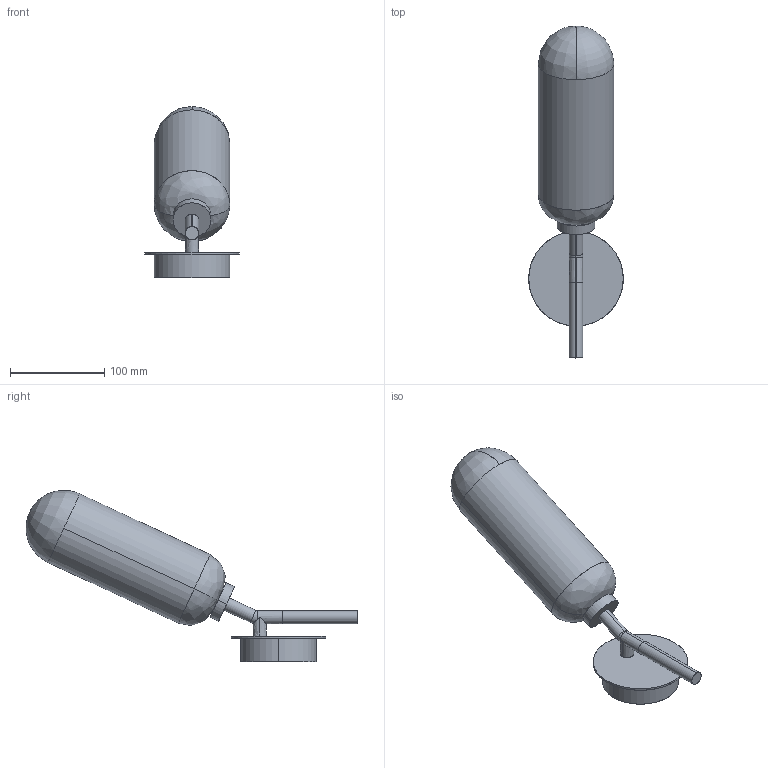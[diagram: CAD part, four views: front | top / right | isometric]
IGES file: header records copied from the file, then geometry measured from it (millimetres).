
Start section: SolidWorks IGES file using analytic representation for surfaces
Global section: file name: C:\Users\Agustin\Desktop\ARNOLD\2024 SEPTIEMBRE\2D\LARI\2D-3D A1333\LARI_A1334.IGS; native system: SolidWorks 2018; preprocessor: SolidWorks 2018; author: Agustin; date: 240918.105227; units: millimetre
Bounding box: 100 x 351.2 x 181.28 mm (x, y, z)
Surface area: 181685.3 mm2 (no closed solid volume)
Topology: 0 solids, 0 shells, 117 faces, 2821 edges, 2820 vertices
Faces by surface type: revolution 84, bspline 33
